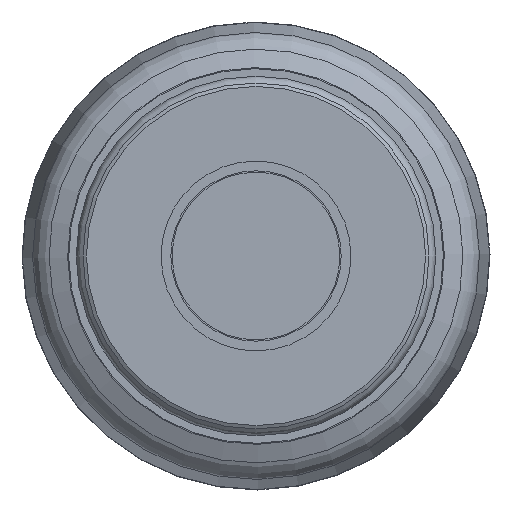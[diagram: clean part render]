
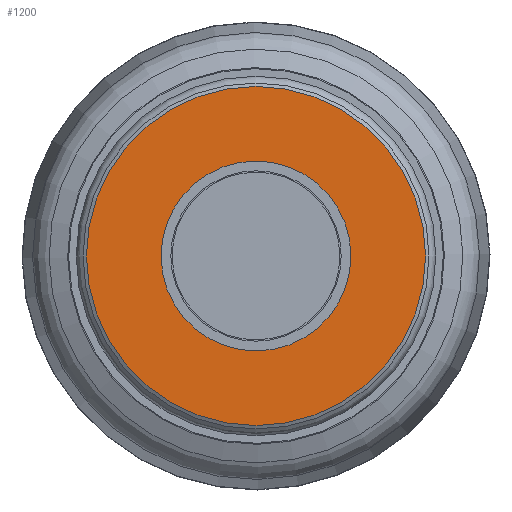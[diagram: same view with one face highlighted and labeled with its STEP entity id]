
A CAD part, left-side view. The second image highlights one B-rep face of the part: STEP entity #1200.
In plain terms, the highlighted planar face has unit normal (-1, 0, 0).
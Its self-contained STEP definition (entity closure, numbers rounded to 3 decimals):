
#34=FACE_BOUND('',#264,.T.);
#97=CIRCLE('',#1321,6.183);
#99=CIRCLE('',#1326,12.5);
#189=FACE_OUTER_BOUND('',#263,.T.);
#263=EDGE_LOOP('',(#1047));
#264=EDGE_LOOP('',(#1048));
#581=VERTEX_POINT('',#2002);
#583=VERTEX_POINT('',#2011);
#738=EDGE_CURVE('',#581,#581,#97,.T.);
#741=EDGE_CURVE('',#583,#583,#99,.T.);
#1047=ORIENTED_EDGE('',*,*,#741,.T.);
#1048=ORIENTED_EDGE('',*,*,#738,.T.);
#1142=PLANE('',#1325);
#1200=ADVANCED_FACE('',(#189,#34),#1142,.T.);
#1321=AXIS2_PLACEMENT_3D('',#2004,#1642,#1643);
#1325=AXIS2_PLACEMENT_3D('',#2010,#1651,#1652);
#1326=AXIS2_PLACEMENT_3D('',#2012,#1653,#1654);
#1642=DIRECTION('center_axis',(1.,0.,0.));
#1643=DIRECTION('ref_axis',(0.,0.,1.));
#1651=DIRECTION('center_axis',(-1.,0.,0.));
#1652=DIRECTION('ref_axis',(0.,0.,
1.));
#1653=DIRECTION('center_axis',(-1.,0.,0.));
#1654=DIRECTION('ref_axis',(0.,1.,0.));
#2002=CARTESIAN_POINT('',(-22.,-1.034,6.096));
#2004=CARTESIAN_POINT('Origin',(-22.,0.,
0.));
#2010=CARTESIAN_POINT('Origin',(-22.,6.625,0.));
#2011=CARTESIAN_POINT('',(-22.,-12.5,0.));
#2012=CARTESIAN_POINT('Origin',(-22.,0.,
0.));
